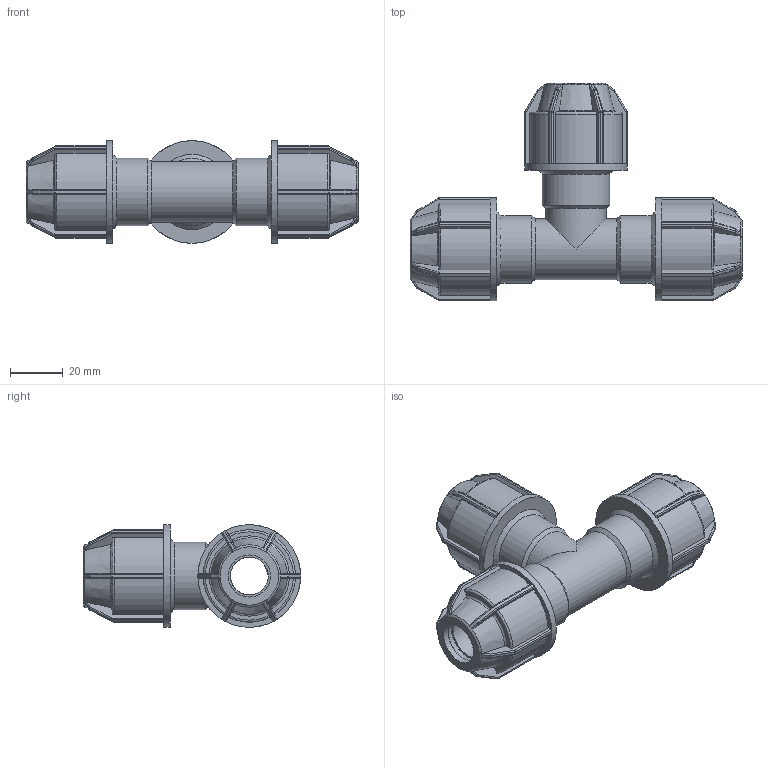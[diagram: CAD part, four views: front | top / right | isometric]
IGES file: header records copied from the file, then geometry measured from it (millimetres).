
Global section: file name: 140400016.ipt; native system: Autodesk Inventor 2015; preprocessor: unknown; author: KIM; date: 20180409.131025; units: millimetre
Bounding box: 126 x 82.5 x 39 mm (x, y, z)
Volume: 88221.7 mm3; surface area: 31462.2 mm2
Topology: 1 solids, 1 shells, 603 faces, 1451 edges, 845 vertices
Faces by surface type: plane 287, cylinder 170, sphere 72, revolution 50, cone 24
Full cylindrical faces by diameter (mm): 23.04 x2, 25.6 x3, 39 x3
